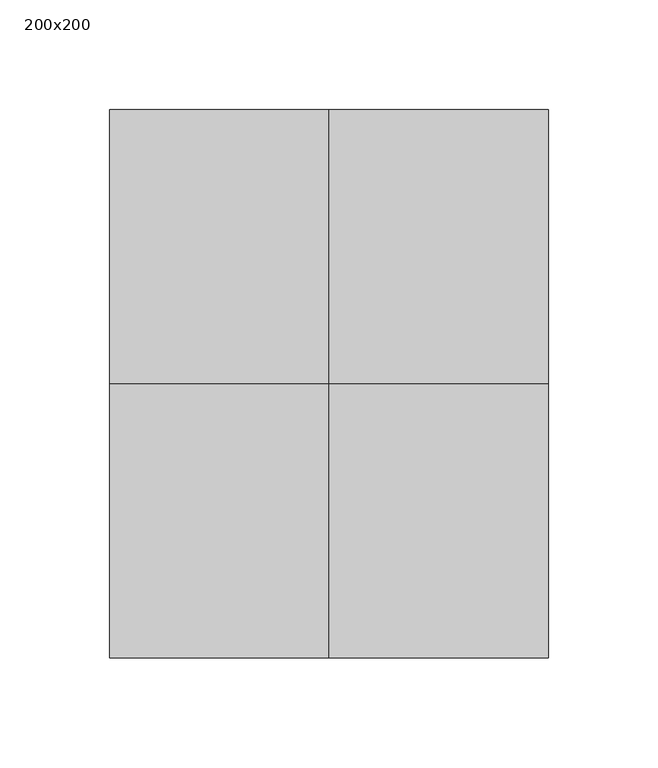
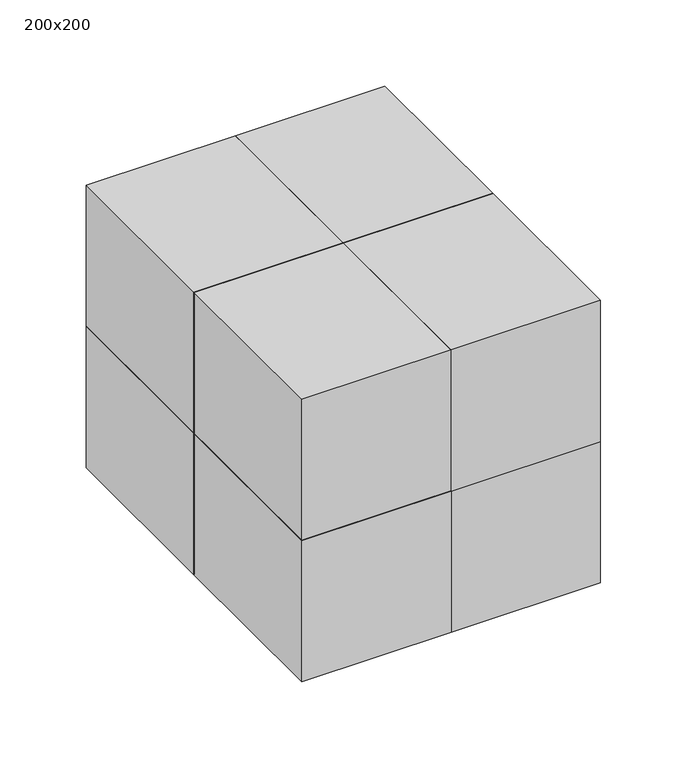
"""IFC4 building model written with IfcOpenShell, lengths in millimetres: proxy geometry, 32.10_sparing rechthoek wall based : 200x200."""

from ifc_helpers import new_model, si_unit, frame, origin, place, context, project, spatial, polyline, outline, extrude, source, transform, mapped, element, save


def proxy_200x200_dde65a00(model_context):
    return source(origin(), model_context, "Body", "SweptSolid", [
        extrude(outline(polyline([(125.0, 0.0), (25.0, 0.0), (25.0, 125.0), (125.0, 125.0), (125.0, 0.0)])), frame((0.0, 0.0, 567.3627135), z_axis=(0.0, 0.0, 1.0), x_axis=(1.0, 0.0, 0.0)), (0.0, 0.0, 1.0), 100.0),
        extrude(outline(polyline([(225.0, 0.0), (125.0, 0.0), (125.0, 125.0), (225.0, 125.0), (225.0, 0.0)])), frame((0.0, 0.0, 667.3627135), z_axis=(0.0, 0.0, 1.0), x_axis=(1.0, 0.0, 0.0)), (0.0, 0.0, 1.0), 100.0),
        extrude(outline(polyline([(225.0, 0.0), (125.0, 0.0), (125.0, 125.0), (225.0, 125.0), (225.0, 0.0)])), frame((0.0, 0.0, 567.3627135), z_axis=(0.0, 0.0, 1.0), x_axis=(1.0, 0.0, 0.0)), (0.0, 0.0, 1.0), 100.0),
        extrude(outline(polyline([(125.0, 0.0), (25.0, 0.0), (25.0, 125.0), (125.0, 125.0), (125.0, 0.0)])), frame((0.0, 0.0, 667.3627135), z_axis=(0.0, 0.0, 1.0), x_axis=(1.0, 0.0, 0.0)), (0.0, 0.0, 1.0), 100.0),
        extrude(outline(polyline([(125.0, -125.0), (25.0, -125.0), (25.0, 0.0), (125.0, 0.0), (125.0, -125.0)])), frame((0.0, 0.0, 567.3627135), z_axis=(0.0, 0.0, 1.0), x_axis=(1.0, 0.0, 0.0)), (0.0, 0.0, 1.0), 100.0),
        extrude(outline(polyline([(225.0, -125.0), (125.0, -125.0), (125.0, 0.0), (225.0, 0.0), (225.0, -125.0)])), frame((0.0, 0.0, 667.3627135), z_axis=(0.0, 0.0, 1.0), x_axis=(1.0, 0.0, 0.0)), (0.0, 0.0, 1.0), 100.0),
        extrude(outline(polyline([(225.0, -125.0), (125.0, -125.0), (125.0, 0.0), (225.0, 0.0), (225.0, -125.0)])), frame((0.0, 0.0, 567.3627135), z_axis=(0.0, 0.0, 1.0), x_axis=(1.0, 0.0, 0.0)), (0.0, 0.0, 1.0), 100.0),
        extrude(outline(polyline([(125.0, -125.0), (25.0, -125.0), (25.0, 0.0), (125.0, 0.0), (125.0, -125.0)])), frame((0.0, 0.0, 667.3627135), z_axis=(0.0, 0.0, 1.0), x_axis=(1.0, 0.0, 0.0)), (0.0, 0.0, 1.0), 100.0),
    ])


if __name__ == "__main__":
    model = new_model("IFC4")
    model_context = context("Model", 3, world=origin())
    ifc_project = project(units=[si_unit("LENGTHUNIT", "METRE", prefix="MILLI")], contexts=[model_context])
    site = spatial("IfcSite", under=ifc_project)
    building = spatial("IfcBuilding", under=site)
    placement = place(None, origin())
    proxy_200x200_shape = proxy_200x200_dde65a00(model_context)
    element("IfcBuildingElementProxy", 1, Name="32.10_sparing rechthoek wall based : 200x200", ObjectType="32.10_sparing rechthoek wall based : 200x200", at=placement, inside=building, context=model_context, shape_type="MappedRepresentation", body=[
        mapped(proxy_200x200_shape, transform((0.0, 0.0, 0.0), x_axis=(1.0, 0.0, 0.0), y_axis=(0.0, 1.0, 0.0), z_axis=(0.0, 0.0, 1.0))),
    ])
    save(model, "model.ifc")
